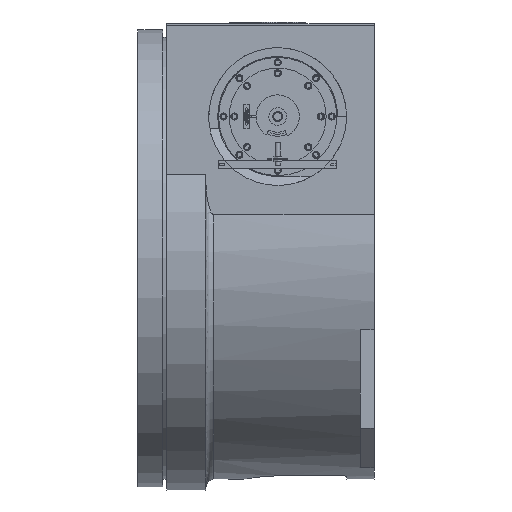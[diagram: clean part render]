
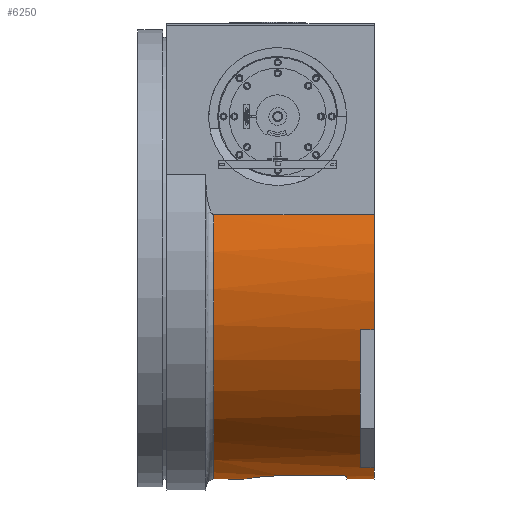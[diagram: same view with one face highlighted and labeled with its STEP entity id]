
A CAD part, left-side view. The second image highlights one B-rep face of the part: STEP entity #6250.
In plain terms, the highlighted cylindrical face has radius 561 mm (diameter 1122 mm), a partial arc.
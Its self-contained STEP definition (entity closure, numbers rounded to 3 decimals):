
#1010=FACE_BOUND('',#12965,.T.);
#1011=FACE_BOUND('',#12966,.T.);
#2441=CYLINDRICAL_SURFACE('',#47604,561.);
#3304=CIRCLE('',#47419,561.);
#3305=CIRCLE('',#47420,561.);
#3306=CIRCLE('',#47421,561.);
#3388=CIRCLE('',#47600,561.);
#3389=CIRCLE('',#47601,561.);
#3390=CIRCLE('',#47602,561.);
#3391=CIRCLE('',#47603,561.);
#5321=B_SPLINE_CURVE_WITH_KNOTS('',3,(#70016,#70017,#70018,#70019,#70020,
#70021),.UNSPECIFIED.,.F.,.F.,(4,2,4),(0.,0.5,1.),.UNSPECIFIED.);
#5322=B_SPLINE_CURVE_WITH_KNOTS('',3,(#70025,#70026,#70027,#70028,#70029,
#70030,#70031,#70032,#70033,#70034,#70035,#70036,#70037,#70038,#70039,#70040,
#70041,#70042,#70043,#70044,#70045,#70046,#70047,#70048,#70049,#70050,#70051,
#70052,#70053,#70054,#70055,#70056,#70057,#70058),.UNSPECIFIED.,.F.,.F.,
(4,2,2,2,2,2,2,2,2,2,2,2,2,2,2,2,4),(0.,0.062,0.125,
0.187,0.25,0.312,0.375,
0.437,0.5,0.562,0.625,
0.687,0.75,0.812,0.875,
0.937,1.),.UNSPECIFIED.);
#5323=B_SPLINE_CURVE_WITH_KNOTS('',3,(#70062,#70063,#70064,#70065,#70066,
#70067),.UNSPECIFIED.,.F.,.F.,(4,2,4),(0.,0.5,1.),.UNSPECIFIED.);
#6250=ADVANCED_FACE('',(#1010,#1011),#2441,.T.);
#12965=EDGE_LOOP('',(#18645,#18646,#18647,#18648,#18649,#18650,#18651,#18652,
#18653,#18654,#18655,#18656));
#12966=EDGE_LOOP('',(#18657,#18658,#18659,#18660,#18661,#18662));
#18645=ORIENTED_EDGE('',*,*,#33840,.T.);
#18646=ORIENTED_EDGE('',*,*,#34214,.F.);
#18647=ORIENTED_EDGE('',*,*,#34495,.F.);
#18648=ORIENTED_EDGE('',*,*,#34496,.T.);
#18649=ORIENTED_EDGE('',*,*,#34331,.T.);
#18650=ORIENTED_EDGE('',*,*,#34211,.F.);
#18651=ORIENTED_EDGE('',*,*,#34497,.F.);
#18652=ORIENTED_EDGE('',*,*,#34498,.T.);
#18653=ORIENTED_EDGE('',*,*,#34499,.T.);
#18654=ORIENTED_EDGE('',*,*,#34217,.F.);
#18655=ORIENTED_EDGE('',*,*,#34500,.F.);
#18656=ORIENTED_EDGE('',*,*,#34501,.T.);
#18657=ORIENTED_EDGE('',*,*,#34502,.T.);
#18658=ORIENTED_EDGE('',*,*,#34503,.T.);
#18659=ORIENTED_EDGE('',*,*,#34504,.T.);
#18660=ORIENTED_EDGE('',*,*,#34505,.T.);
#18661=ORIENTED_EDGE('',*,*,#34506,.T.);
#18662=ORIENTED_EDGE('',*,*,#34507,.T.);
#29141=VERTEX_POINT('',#68423);
#29143=VERTEX_POINT('',#68426);
#29483=VERTEX_POINT('',#69382);
#29484=VERTEX_POINT('',#69383);
#29485=VERTEX_POINT('',#69386);
#29487=VERTEX_POINT('',#69391);
#29488=VERTEX_POINT('',#69393);
#29585=VERTEX_POINT('',#69639);
#29723=VERTEX_POINT('',#70003);
#29724=VERTEX_POINT('',#70006);
#29725=VERTEX_POINT('',#70008);
#29726=VERTEX_POINT('',#70011);
#29727=VERTEX_POINT('',#70014);
#29728=VERTEX_POINT('',#70015);
#29729=VERTEX_POINT('',#70022);
#29730=VERTEX_POINT('',#70024);
#29731=VERTEX_POINT('',#70059);
#29732=VERTEX_POINT('',#70061);
#33840=EDGE_CURVE('',#29143,#29141,#39500,.T.);
#34211=EDGE_CURVE('',#29483,#29484,#3304,.T.);
#34214=EDGE_CURVE('',#29485,#29141,#3305,.T.);
#34217=EDGE_CURVE('',#29487,#29488,#3306,.T.);
#34331=EDGE_CURVE('',#29585,#29484,#39843,.T.);
#34495=EDGE_CURVE('',#29723,#29485,#39962,.T.);
#34496=EDGE_CURVE('',#29723,#29585,#3388,.T.);
#34497=EDGE_CURVE('',#29724,#29483,#39963,.T.);
#34498=EDGE_CURVE('',#29724,#29725,#3389,.T.);
#34499=EDGE_CURVE('',#29725,#29488,#39964,.T.);
#34500=EDGE_CURVE('',#29726,#29487,#39965,.T.);
#34501=EDGE_CURVE('',#29726,#29143,#3390,.T.);
#34502=EDGE_CURVE('',#29727,#29728,#3391,.T.);
#34503=EDGE_CURVE('',#29728,#29729,#5321,.T.);
#34504=EDGE_CURVE('',#29729,#29730,#39966,.T.);
#34505=EDGE_CURVE('',#29730,#29731,#5322,.T.);
#34506=EDGE_CURVE('',#29731,#29732,#39967,.T.);
#34507=EDGE_CURVE('',#29732,#29727,#5323,.T.);
#39500=LINE('',#68425,#43568);
#39843=LINE('',#69638,#43911);
#39962=LINE('',#70002,#44030);
#39963=LINE('',#70005,#44031);
#39964=LINE('',#70009,#44032);
#39965=LINE('',#70010,#44033);
#39966=LINE('',#70023,#44034);
#39967=LINE('',#70060,#44035);
#43568=VECTOR('',#52385,1.);
#43911=VECTOR('',#53280,1.);
#44030=VECTOR('',#53613,1.);
#44031=VECTOR('',#53616,1.);
#44032=VECTOR('',#53619,1.);
#44033=VECTOR('',#53620,1.);
#44034=VECTOR('',#53625,1.);
#44035=VECTOR('',#53626,1.);
#47419=AXIS2_PLACEMENT_3D('',#69381,#53051,#53052);
#47420=AXIS2_PLACEMENT_3D('',#69387,#53055,#53056);
#47421=AXIS2_PLACEMENT_3D('',#69392,#53059,#53060);
#47600=AXIS2_PLACEMENT_3D('',#70004,#53614,#53615);
#47601=AXIS2_PLACEMENT_3D('',#70007,#53617,#53618);
#47602=AXIS2_PLACEMENT_3D('',#70012,#53621,#53622);
#47603=AXIS2_PLACEMENT_3D('',#70013,#53623,#53624);
#47604=AXIS2_PLACEMENT_3D('',#70068,#53627,#53628);
#52385=DIRECTION('',(0.,-1.,0.));
#53051=DIRECTION('',(0.,-1.,0.));
#53052=DIRECTION('',(0.,0.,-1.));
#53055=DIRECTION('',(0.,-1.,0.));
#53056=DIRECTION('',(0.,0.,-1.));
#53059=DIRECTION('',(0.,-1.,0.));
#53060=DIRECTION('',(0.,0.,-1.));
#53280=DIRECTION('',(0.,-1.,0.));
#53613=DIRECTION('',(0.,-1.,0.));
#53614=DIRECTION('',(0.,1.,0.));
#53615=DIRECTION('',(0.,0.,-1.));
#53616=DIRECTION('',(0.,-1.,0.));
#53617=DIRECTION('',(0.,-1.,0.));
#53618=DIRECTION('',(0.,0.,1.));
#53619=DIRECTION('',(0.,-1.,0.));
#53620=DIRECTION('',(0.,-1.,0.));
#53621=DIRECTION('',(0.,1.,0.));
#53622=DIRECTION('',(0.,0.,1.));
#53623=DIRECTION('',(0.,-1.,0.));
#53624=DIRECTION('',(0.,0.,-1.));
#53625=DIRECTION('',(0.,1.,0.));
#53626=DIRECTION('',(0.,-1.,0.));
#53627=DIRECTION('',(0.,-1.,0.));
#53628=DIRECTION('',(0.,0.,1.));
#68423=CARTESIAN_POINT('',(2120.12,-1104.422,-2199.826));
#68425=CARTESIAN_POINT('',(2120.12,-1069.422,-2199.826));
#68426=CARTESIAN_POINT('',(2120.12,-1069.422,-2199.826));
#69381=CARTESIAN_POINT('',(1939.122,-1104.422,-1668.826));
#69382=CARTESIAN_POINT('',(1389.122,-1104.422,-1558.278));
#69383=CARTESIAN_POINT('',(1408.122,-1104.422,-1849.824));
#69386=CARTESIAN_POINT('',(1758.125,-1104.422,-2199.826));
#69387=CARTESIAN_POINT('',(1939.122,-1104.422,-1668.826));
#69391=CARTESIAN_POINT('',(2470.122,-1104.422,-1849.824));
#69392=CARTESIAN_POINT('',(1939.122,-1104.422,-1668.826));
#69393=CARTESIAN_POINT('',(2489.122,-1104.422,-1558.278));
#69638=CARTESIAN_POINT('',(1408.122,-1069.422,-1849.824));
#69639=CARTESIAN_POINT('',(1408.122,-1069.422,-1849.824));
#70002=CARTESIAN_POINT('',(1758.125,-1069.422,-2199.826));
#70003=CARTESIAN_POINT('',(1758.125,-1069.422,-2199.826));
#70004=CARTESIAN_POINT('',(1939.122,-1069.422,-1668.826));
#70005=CARTESIAN_POINT('',(1389.122,-572.422,-1558.278));
#70006=CARTESIAN_POINT('',(1389.122,-697.422,-1558.278));
#70007=CARTESIAN_POINT('',(1939.122,-697.422,-1668.826));
#70008=CARTESIAN_POINT('',(2489.122,-697.422,-1558.278));
#70009=CARTESIAN_POINT('',(2489.122,-572.422,-1558.278));
#70010=CARTESIAN_POINT('',(2470.122,-1069.422,-1849.824));
#70011=CARTESIAN_POINT('',(2470.122,-1069.422,-1849.824));
#70012=CARTESIAN_POINT('',(1939.122,-1069.422,-1668.826));
#70013=CARTESIAN_POINT('',(1939.122,-1034.422,-1668.826));
#70014=CARTESIAN_POINT('',(1849.122,-1034.422,-2222.56));
#70015=CARTESIAN_POINT('',(2029.122,-1034.422,-2222.56));
#70016=CARTESIAN_POINT('',(2029.122,-1034.422,-2222.56));
#70017=CARTESIAN_POINT('',(2031.748,-1034.422,-2222.133));
#70018=CARTESIAN_POINT('',(2034.316,-1033.358,-2221.694));
#70019=CARTESIAN_POINT('',(2038.018,-1029.682,-2221.044));
#70020=CARTESIAN_POINT('',(2039.122,-1027.084,-2220.842));
#70021=CARTESIAN_POINT('',(2039.122,-1024.422,-2220.842));
#70022=CARTESIAN_POINT('',(2039.122,-1024.422,-2220.842));
#70023=CARTESIAN_POINT('',(2039.122,-1104.422,-2220.842));
#70024=CARTESIAN_POINT('',(2039.122,-869.422,-2220.842));
#70025=CARTESIAN_POINT('',(2039.122,-869.422,-2220.842));
#70026=CARTESIAN_POINT('',(2039.122,-862.803,-2220.842));
#70027=CARTESIAN_POINT('',(2038.472,-856.296,-2220.961));
#70028=CARTESIAN_POINT('',(2035.924,-843.5,-2221.413));
#70029=CARTESIAN_POINT('',(2033.996,-837.142,-2221.752));
#70030=CARTESIAN_POINT('',(2028.973,-825.04,-2222.59));
#70031=CARTESIAN_POINT('',(2025.902,-819.303,-2223.086));
#70032=CARTESIAN_POINT('',(2018.647,-808.444,-2224.173));
#70033=CARTESIAN_POINT('',(2014.434,-803.312,-2224.768));
#70034=CARTESIAN_POINT('',(2005.23,-794.109,-2225.937));
#70035=CARTESIAN_POINT('',(2000.206,-789.975,-2226.518));
#70036=CARTESIAN_POINT('',(1989.283,-782.663,-2227.606));
#70037=CARTESIAN_POINT('',(1983.483,-779.564,-2228.102));
#70038=CARTESIAN_POINT('',(1971.459,-774.571,-2228.926));
#70039=CARTESIAN_POINT('',(1965.144,-772.643,-2229.26));
#70040=CARTESIAN_POINT('',(1952.232,-770.067,-2229.71));
#70041=CARTESIAN_POINT('',(1945.736,-769.428,-2229.826));
#70042=CARTESIAN_POINT('',(1932.666,-769.417,-2229.827));
#70043=CARTESIAN_POINT('',(1926.025,-770.068,-2229.71));
#70044=CARTESIAN_POINT('',(1913.191,-772.622,-2229.264));
#70045=CARTESIAN_POINT('',(1906.951,-774.512,-2228.936));
#70046=CARTESIAN_POINT('',(1894.828,-779.528,-2228.108));
#70047=CARTESIAN_POINT('',(1888.992,-782.651,-2227.609));
#70048=CARTESIAN_POINT('',(1878.171,-789.878,-2226.532));
#70049=CARTESIAN_POINT('',(1873.107,-794.022,-2225.948));
#70050=CARTESIAN_POINT('',(1863.796,-803.322,-2224.766));
#70051=CARTESIAN_POINT('',(1859.667,-808.355,-2224.183));
#70052=CARTESIAN_POINT('',(1852.424,-819.167,-2223.099));
#70053=CARTESIAN_POINT('',(1849.284,-825.017,-2222.592));
#70054=CARTESIAN_POINT('',(1844.262,-837.105,-2221.754));
#70055=CARTESIAN_POINT('',(1842.363,-843.337,-2221.421));
#70056=CARTESIAN_POINT('',(1839.788,-856.175,-2220.964));
#70057=CARTESIAN_POINT('',(1839.122,-862.803,-2220.842));
#70058=CARTESIAN_POINT('',(1839.122,-869.422,-2220.842));
#70059=CARTESIAN_POINT('',(1839.122,-869.422,-2220.842));
#70060=CARTESIAN_POINT('',(1839.122,-1104.422,-2220.842));
#70061=CARTESIAN_POINT('',(1839.122,-1024.422,-2220.842));
#70062=CARTESIAN_POINT('',(1839.122,-1024.422,-2220.842));
#70063=CARTESIAN_POINT('',(1839.122,-1027.083,-2220.842));
#70064=CARTESIAN_POINT('',(1840.225,-1029.678,-2221.044));
#70065=CARTESIAN_POINT('',(1843.921,-1033.352,-2221.693));
#70066=CARTESIAN_POINT('',(1846.498,-1034.422,-2222.134));
#70067=CARTESIAN_POINT('',(1849.122,-1034.422,-2222.56));
#70068=CARTESIAN_POINT('',(1939.122,-1104.422,-1668.826));
